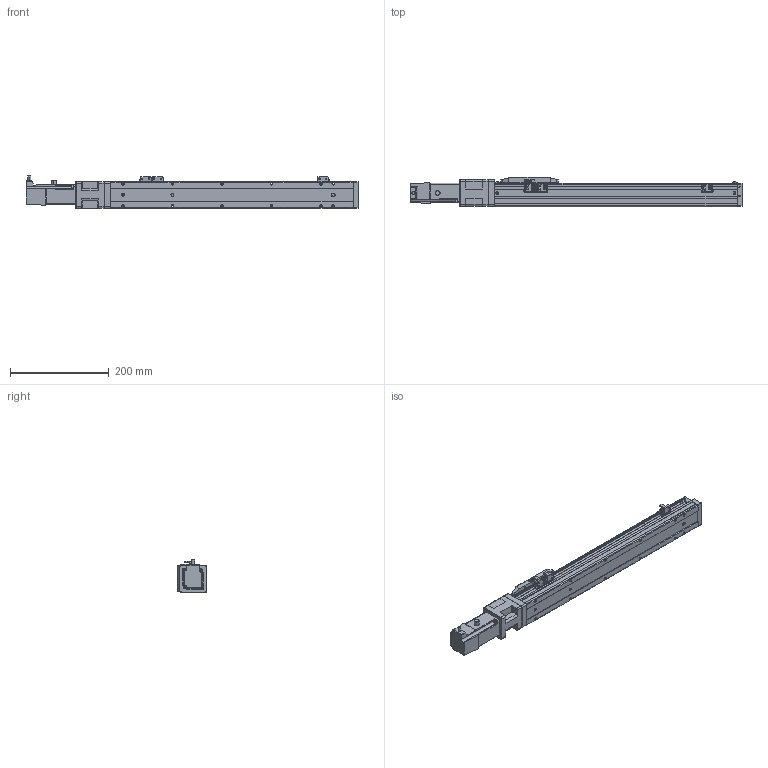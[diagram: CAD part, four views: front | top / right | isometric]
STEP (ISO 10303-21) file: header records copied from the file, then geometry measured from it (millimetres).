
FILE_DESCRIPTION (( 'STEP AP203' ), '1' );
FILE_NAME ('CTH5-L10-S350-BC-C10(¼ò).STEP', '2023-02-04T02:09:07', ( '' ), ( '' ), 'SwSTEP 2.0', 'SolidWorks 2018', '' );
FILE_SCHEMA (( 'CONFIG_CONTROL_DESIGN' ));
Length unit declared in the file: millimetre
Products named in the file (21): 内六角圆柱头螺钉M3-2; M3; CTH5ヶ耜啣(潠); CTH5耜晚蹟隊; T10-p1; CTH5-L10-S350-BC-C10(潠); M3｡｣; CTH嫖萇羲壽假蚾啣; 100W萇儂; CTH5耜晚蹟隊-1; CTH5綴耜啣; PM-Y45; 嫖萇羲壽郪磁1; CTH5-BC-03; CTH5菁釱-L490; CTH5覜茼え; 葩璃 蚾饜极13^CTH8-L10-S50-BM-C40(潠)1; CTH5萇儂釱; hex nuts, style 1-grades ab gb_GB_FASTENER_NUT_SNAB1 M3-N; CTH5賑怢; CTH5萇儂釱欶
Assembly tree (37 placements, depth 3):
  CTH5-L10-S350-BC-C10(潠)
    CTH5綴耜啣
    CTH5賑怢
    CTH5ヶ耜啣(潠)
    CTH5菁釱-L490
    CTH5耜晚蹟隊  x2
    CTH5萇儂釱
      CTH5-BC-03
    CTH5萇儂釱欶
    100W萇儂
      T10-p1
    嫖萇羲壽郪磁1  x2
      CTH嫖萇羲壽假蚾啣
      PM-Y45
      M3｡｣
      内六角圆柱头螺钉M3-2
      hex nuts, style 1-grades ab gb_GB_FASTENER_NUT_SNAB1 M3-N
    CTH5覜茼え
    葩璃 蚾饜极13^CTH8-L10-S50-BM-C40(潠)1
      CTH嫖萇羲壽假蚾啣
      PM-Y45
      内六角圆柱头螺钉M3-2  x2
      M3｡｣  x2
      hex nuts, style 1-grades ab gb_GB_FASTENER_NUT_SNAB1 M3-N  x2
    M3  x2
    CTH5耜晚蹟隊-1  x4
Bounding box: 671.1 x 60 x 65.7 mm (x, y, z)
Volume: 1405756.9 mm3; surface area: 216743 mm2
Topology: 40 solids, 40 shells, 1515 faces, 3778 edges, 2438 vertices
Faces by surface type: plane 848, cylinder 438, cone 167, torus 44, bspline 18
Entity records: 33843 total; most frequent: CARTESIAN_POINT 6208, DIRECTION 5334, ORIENTED_EDGE 5104, EDGE_CURVE 2552, AXIS2_PLACEMENT_3D 1835, VECTOR 1664, LINE 1664, VERTEX_POINT 1644
